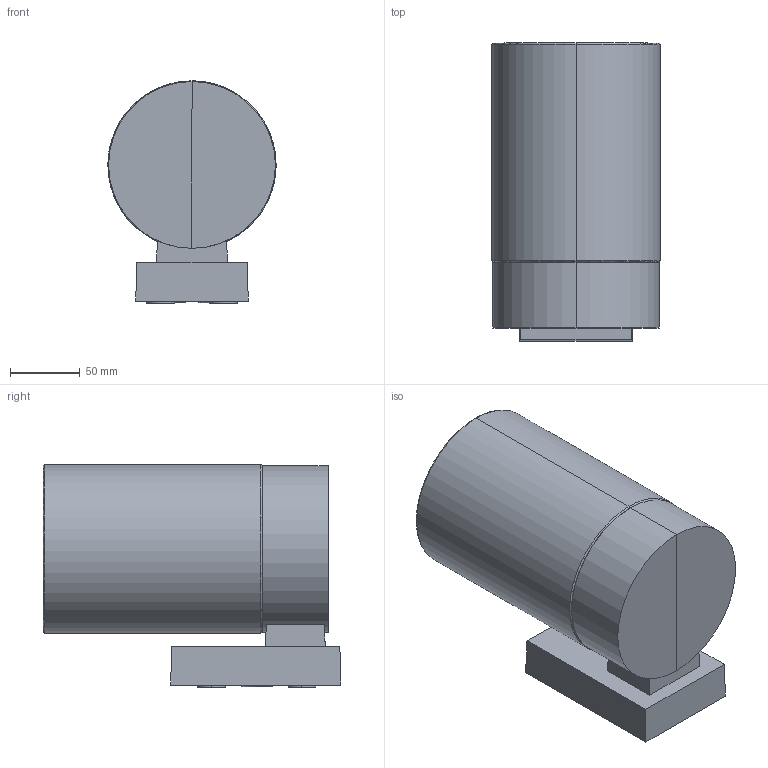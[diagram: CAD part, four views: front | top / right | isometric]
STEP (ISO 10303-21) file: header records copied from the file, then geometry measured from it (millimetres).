
FILE_DESCRIPTION(/* description */ (''),/* implementation_level */ '2;1');
FILE_NAME(/* name */ 'C:\Users\FrancoSartori\Documents\FARO\01_En Proceso\0000_2022\000_KILA\03_Publicación\WALL.stp',/* time_stamp */ '2022-09-19T08:40:07+02:00',/* author */ ('FrancoSartori'),/* organization */ (''),/* preprocessor_version */ 'ST-DEVELOPER v19.2',/* originating_system */ 'AutoCAD Mechanical',/* authorisation */ '');
FILE_SCHEMA (('AUTOMOTIVE_DESIGN { 1 0 10303 214 3 1 1 }'));
Length unit declared in the file: millimetre
Products named in the file (2): Product; KILAW_ - LAMP-479679-Export
Assembly tree (1 placements, depth 2):
  Product
    KILAW_ - LAMP-479679-Export
Bounding box: 120.95 x 214.23 x 159.97 mm (x, y, z)
Volume: 905562.9 mm3; surface area: 306168.3 mm2
Topology: 8 solids, 9 shells, 243 faces, 548 edges, 344 vertices
Faces by surface type: plane 126, cylinder 95, torus 18, cone 4
Entity records: 7310 total; most frequent: CARTESIAN_POINT 1816, DIRECTION 1134, ORIENTED_EDGE 1096, EDGE_CURVE 548, AXIS2_PLACEMENT_3D 430, VERTEX_POINT 344, LINE 274, VECTOR 274
